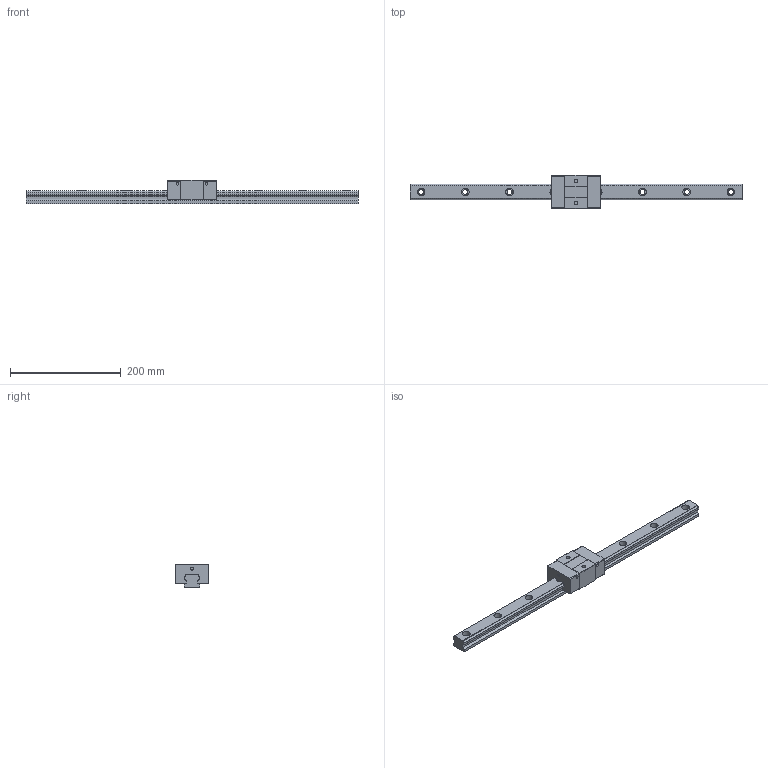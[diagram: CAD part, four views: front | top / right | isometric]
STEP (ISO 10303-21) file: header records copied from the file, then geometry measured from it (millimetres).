
FILE_DESCRIPTION (( 'STEP AP203' ), '1' );
FILE_NAME ('TRS30VS-WZ.STEP', '2024-06-12T07:18:59', ( '' ), ( '' ), 'SwSTEP 2.0', 'SolidWorks 2022', '' );
FILE_SCHEMA (( 'CONFIG_CONTROL_DESIGN' ));
Length unit declared in the file: millimetre
Products named in the file (1): TRS30VS-WZ
Bounding box: 600 x 60 x 42 mm (x, y, z)
Volume: 466377.8 mm3; surface area: 93970.7 mm2
Topology: 2 solids, 2 shells, 172 faces, 452 edges, 300 vertices
Faces by surface type: plane 88, cylinder 84
Entity records: 5459 total; most frequent: DIRECTION 966, CARTESIAN_POINT 925, ORIENTED_EDGE 904, EDGE_CURVE 452, AXIS2_PLACEMENT_3D 341, VERTEX_POINT 300, VECTOR 284, LINE 284
